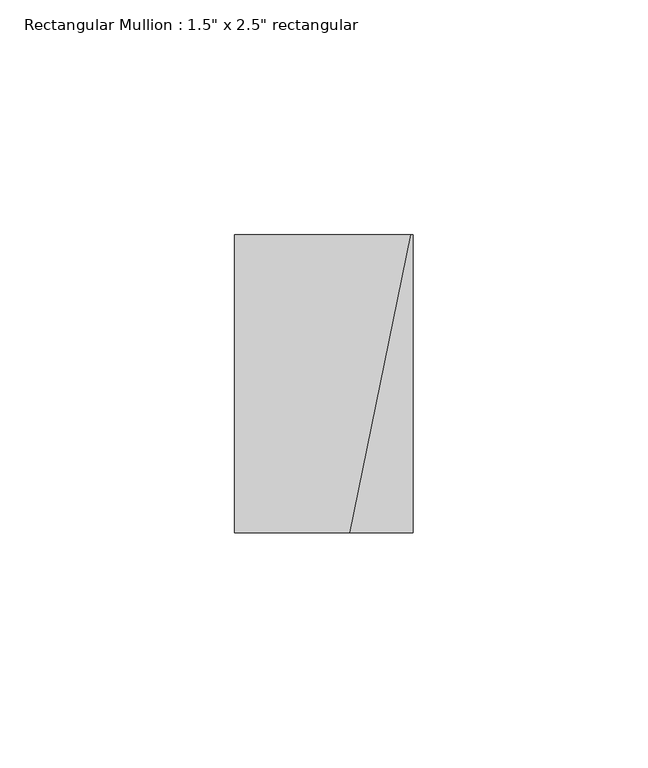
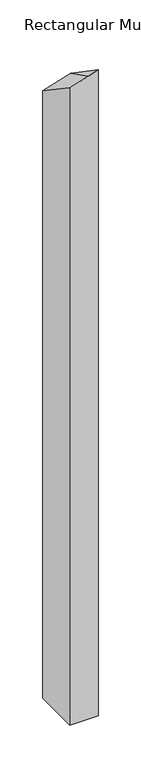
"""IFC4 building model written with IfcOpenShell, lengths in millimetres: member geometry."""

from ifc_helpers import new_model, si_unit, origin, place, context, project, spatial, faceted_brep, source, transform, mapped, element, save


def member_acc734a8(model_context):
    return source(origin(), model_context, "Body", "Brep", [
        faceted_brep([(19.05, 31.75, -934.9918778), (19.05, -31.75, -934.9918778), (-19.05, -31.75, -934.9918778), (-19.05, 31.75, -934.9918778), (-19.05, 31.75, -66.9400797), (18.613186, 31.75, -55.0698338), (19.05, 31.75, -54.9120841), (-19.05, -31.75, -24.1901247), (19.05, -31.75, -11.5618655), (5.5550386, -31.75, -16.4353942)], [[[0, 1, 2, 3]], [[4, 5, 6, 0, 3]], [[7, 4, 3, 2]], [[8, 9, 7, 2, 1]], [[6, 8, 1, 0]], [[6, 5, 9, 8]], [[5, 4, 7, 9]]]),
    ])


if __name__ == "__main__":
    model = new_model("IFC4")
    model_context = context("Model", 3, world=origin())
    ifc_project = project(units=[si_unit("LENGTHUNIT", "METRE", prefix="MILLI")], contexts=[model_context])
    site = spatial("IfcSite", under=ifc_project)
    building = spatial("IfcBuilding", under=site)
    placement = place(None, origin())
    member_shape = member_acc734a8(model_context)
    element("IfcMember", 1, ObjectType="Rectangular Mullion : 1.5\" x 2.5\" rectangular", at=placement, inside=building, context=model_context, shape_type="MappedRepresentation", body=[
        mapped(member_shape, transform((0.0, 0.0, 0.0), x_axis=(1.0, 0.0, 0.0), y_axis=(0.0, 1.0, 0.0), z_axis=(0.0, 0.0, 1.0))),
    ])
    save(model, "model.ifc")
